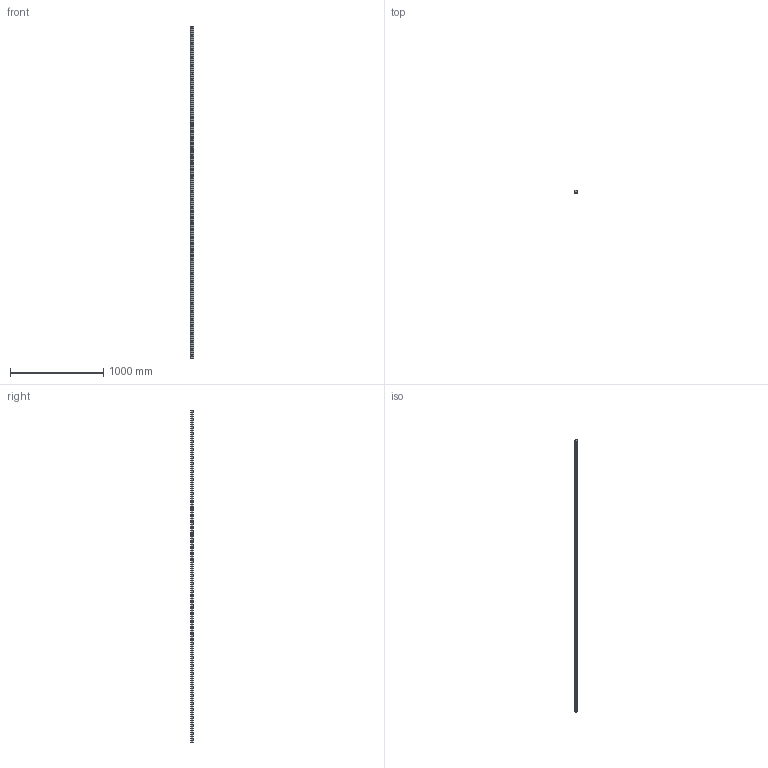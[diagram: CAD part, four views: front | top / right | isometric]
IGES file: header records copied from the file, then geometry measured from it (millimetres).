
Start section: SolidWorks IGES file using analytic representation for surfaces
Global section: file name: C:\Users\IanO\Desktop\Temp File\GENERAL\L1016_v2\L1016.RF35_v2\L1016.RF35_v2_20190612_IGES\L1016.RF35-3560.igs; native system: SolidWorks 2017; preprocessor: SolidWorks 2017; author: IanO; date: 190613.173402; units: millimetre
Bounding box: 34 x 26 x 3560 mm (x, y, z)
Surface area: 463396.1 mm2 (no closed solid volume)
Topology: 0 solids, 0 shells, 341 faces, 5568 edges, 5478 vertices
Faces by surface type: revolution 274, bspline 67
